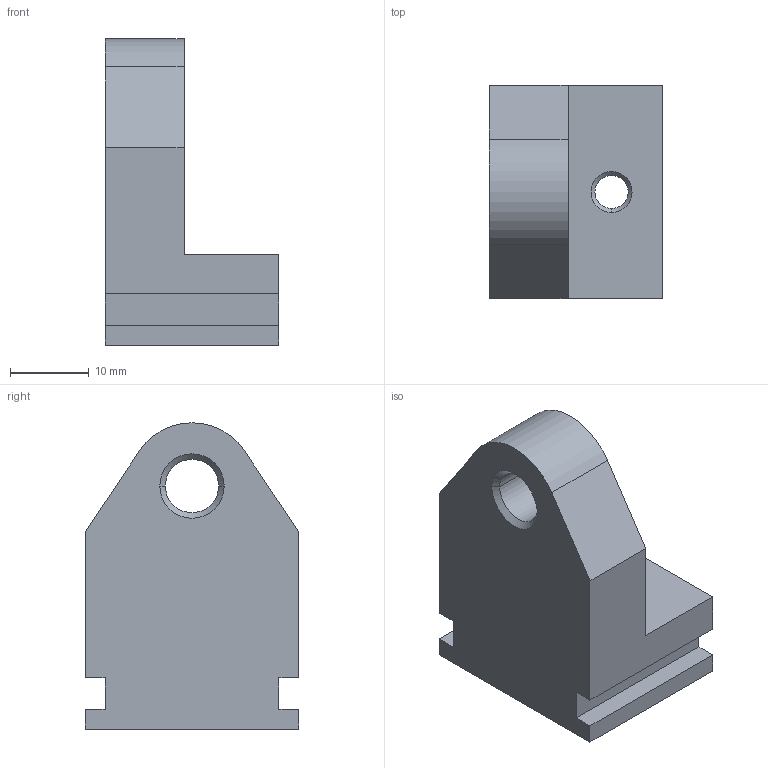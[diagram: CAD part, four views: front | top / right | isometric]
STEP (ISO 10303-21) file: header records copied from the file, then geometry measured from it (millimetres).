
FILE_DESCRIPTION( ('This file contains a STEP AP42 implementation' ,'as created by ZW3D STEP Interface translator.') ,'2;1' );
FILE_NAME( 'zkj-盓傅釱.stp' ,'23 9 3.214433', (''), ('ZWCAD Software Co.'), 'Version 1.0', 'ZW3D to STEP translator', '' );
FILE_SCHEMA(('AUTOMOTIVE_DESIGN { 1 0 10303 214 1 1 1 1 }'));
Length unit declared in the file: millimetre
Products named in the file (2): 0; zkj-盓傅釱
Bounding box: 22 x 27 x 38.79 mm (x, y, z)
Volume: 11898.4 mm3; surface area: 4347.5 mm2
Topology: 1 solids, 1 shells, 30 faces, 76 edges, 48 vertices
Faces by surface type: plane 17, cone 8, cylinder 5
Entity records: 962 total; most frequent: DIRECTION 156, CARTESIAN_POINT 155, ORIENTED_EDGE 152, EDGE_CURVE 76, VECTOR 58, LINE 58, AXIS2_PLACEMENT_3D 49, VERTEX_POINT 48
